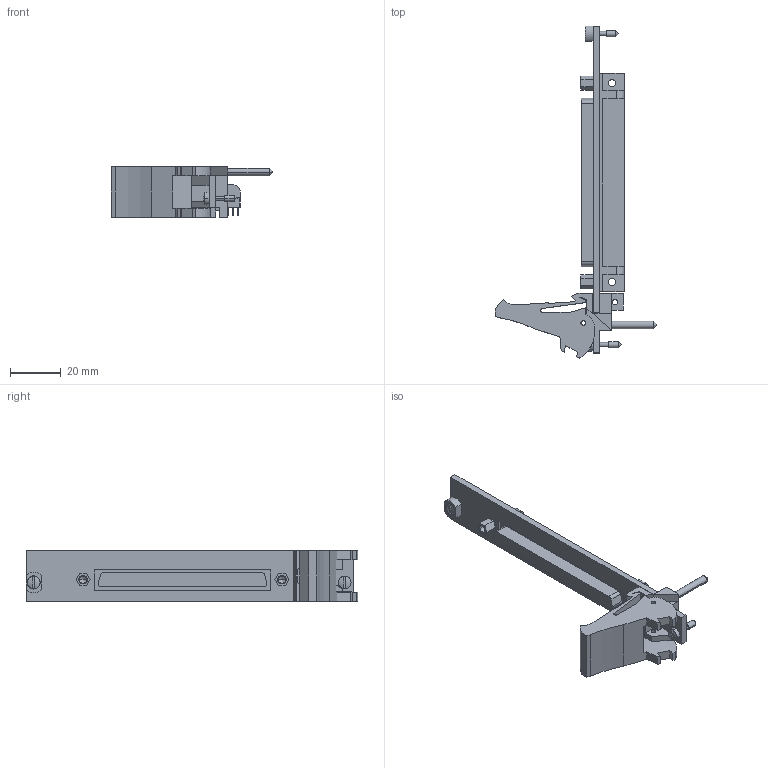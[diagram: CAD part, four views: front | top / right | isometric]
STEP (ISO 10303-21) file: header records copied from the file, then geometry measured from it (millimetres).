
FILE_DESCRIPTION((''),'2;1');
FILE_NAME('CU_PXI-MOD-100POS-SCSI','2007-10-10T',('chrisj'),(''),'PRO/ENGINEER BY PARAMETRIC TECHNOLOGY CORPORATION, 2006300','PRO/ENGINEER BY PARAMETRIC TECHNOLOGY CORPORATION, 2006300','');
FILE_SCHEMA(('AUTOMOTIVE_DESIGN_CC2 { 1 2 10303 214 -1 1 5 2 }'));
Length unit declared in the file: inch
Products named in the file (1): CU_PXI-MOD-100POS-SCSI
Bounding box: 63.53 x 130.62 x 20.02 mm (x, y, z)
Volume: 18828.8 mm3; surface area: 15237.7 mm2
Topology: 1 solids, 1 shells, 274 faces, 734 edges, 479 vertices
Faces by surface type: plane 173, cylinder 83, cone 14, sphere 4
Entity records: 8621 total; most frequent: CARTESIAN_POINT 1517, DIRECTION 1463, ORIENTED_EDGE 1460, EDGE_CURVE 730, VECTOR 535, LINE 535, VERTEX_POINT 479, AXIS2_PLACEMENT_3D 464
